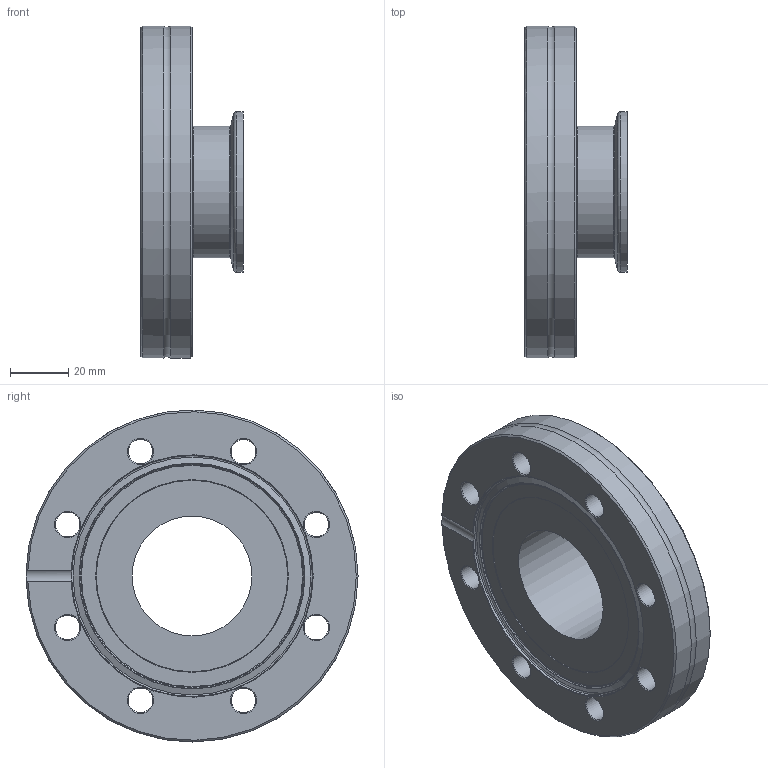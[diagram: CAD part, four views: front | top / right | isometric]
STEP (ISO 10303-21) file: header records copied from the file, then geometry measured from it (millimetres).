
FILE_DESCRIPTION((''),'2;1');
FILE_NAME('W:\13785_CF_Global_Fit_Umsetzung\129_Adapter_CF-F_ISO-KF\M213-259.stp','2010-09-01T13:16:12',('KAA'),(''),'Autodesk Inventor 2011','Autodesk Inventor 2011','');
FILE_SCHEMA(('AUTOMOTIVE_DESIGN { 1 0 10303 214 1 1 1 1 }'));
Length unit declared in the file: millimetre
Products named in the file (1): 213-259
Bounding box: 35 x 113.7 x 113.7 mm (x, y, z)
Volume: 148833.7 mm3; surface area: 35063.5 mm2
Topology: 1 solids, 1 shells, 52 faces, 120 edges, 73 vertices
Faces by surface type: cone 24, cylinder 15, torus 7, plane 6
Full cylindrical faces by diameter (mm): 8.4 x8, 41 x1, 41.2 x1, 45 x1, 55 x1, 113.7 x2
Entity records: 1262 total; most frequent: DIRECTION 226, CARTESIAN_POINT 220, ORIENTED_EDGE 136, EDGE_LOOP 116, AXIS2_PLACEMENT_3D 112, EDGE_CURVE 68, VERTEX_POINT 64, FACE_BOUND 64
